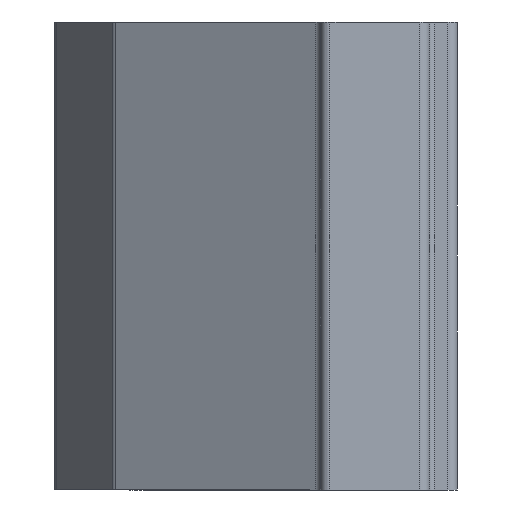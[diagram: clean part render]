
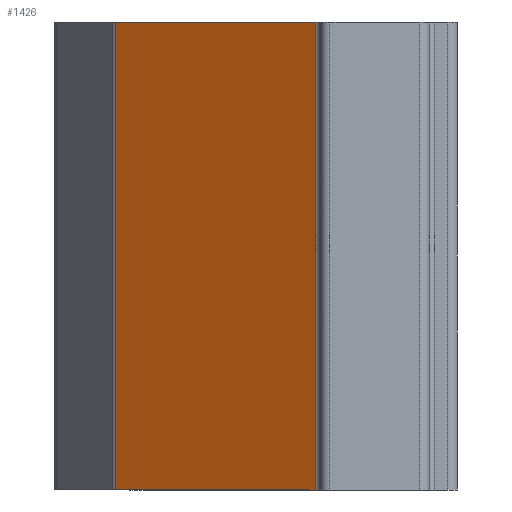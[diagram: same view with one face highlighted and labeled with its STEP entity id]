
A CAD part, front view. The second image highlights one B-rep face of the part: STEP entity #1426.
In plain terms, the highlighted planar face has unit normal (-0.5, -0.866, 0).
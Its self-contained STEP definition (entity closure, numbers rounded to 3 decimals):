
#12 = CARTESIAN_POINT ( 'NONE',  ( -6.05, 41.719, 12.5 ) ) ;
#16 = CARTESIAN_POINT ( 'NONE',  ( -6.05, 41.719, -12.5 ) ) ;
#20 = CARTESIAN_POINT ( 'NONE',  ( -16.743, 47.893, -12.5 ) ) ;
#145 = DIRECTION ( 'NONE',  ( 0., 0., -1. ) ) ;
#146 = VECTOR ( 'NONE', #900, 1000. ) ;
#175 = CARTESIAN_POINT ( 'NONE',  ( -6.05, 41.719, 12.5 ) ) ;
#203 = VERTEX_POINT ( 'NONE', #175 ) ;
#238 = PLANE ( 'NONE',  #1768 ) ;
#344 = DIRECTION ( 'NONE',  ( 0.866, -0.5, 0. ) ) ;
#345 = EDGE_LOOP ( 'NONE', ( #1789, #1502, #644, #919 ) ) ;
#376 = CARTESIAN_POINT ( 'NONE',  ( -16.743, 47.893, 12.5 ) ) ;
#452 = LINE ( 'NONE', #12, #860 ) ;
#455 = FACE_OUTER_BOUND ( 'NONE', #345, .T. ) ;
#607 = CARTESIAN_POINT ( 'NONE',  ( -16.743, 47.893, -12.5 ) ) ;
#644 = ORIENTED_EDGE ( 'NONE', *, *, #747, .F. ) ;
#657 = LINE ( 'NONE', #376, #1849 ) ;
#747 = EDGE_CURVE ( 'NONE', #1680, #203, #657, .T. ) ;
#785 = LINE ( 'NONE', #1470, #1795 ) ;
#860 = VECTOR ( 'NONE', #1296, 1000. ) ;
#900 = DIRECTION ( 'NONE',  ( 0.866, -0.5, 0. ) ) ;
#919 = ORIENTED_EDGE ( 'NONE', *, *, #1120, .T. ) ;
#1093 = DIRECTION ( 'NONE',  ( 0.5, 0.866, 0. ) ) ;
#1102 = VERTEX_POINT ( 'NONE', #16 ) ;
#1120 = EDGE_CURVE ( 'NONE', #1680, #1131, #785, .T. ) ;
#1131 = VERTEX_POINT ( 'NONE', #607 ) ;
#1157 = EDGE_CURVE ( 'NONE', #1131, #1102, #1776, .T. ) ;
#1253 = CARTESIAN_POINT ( 'NONE',  ( -16.743, 47.893, 12.5 ) ) ;
#1296 = DIRECTION ( 'NONE',  ( 0., 0., -1. ) ) ;
#1426 = ADVANCED_FACE ( 'NONE', ( #455 ), #238, .F. ) ;
#1470 = CARTESIAN_POINT ( 'NONE',  ( -16.743, 47.893, 12.5 ) ) ;
#1502 = ORIENTED_EDGE ( 'NONE', *, *, #1832, .F. ) ;
#1560 = CARTESIAN_POINT ( 'NONE',  ( -16.743, 47.893, 12.5 ) ) ;
#1650 = DIRECTION ( 'NONE',  ( -0.866, 0.5, 0. ) ) ;
#1680 = VERTEX_POINT ( 'NONE', #1560 ) ;
#1768 = AXIS2_PLACEMENT_3D ( 'NONE', #1253, #1093, #1650 ) ;
#1776 = LINE ( 'NONE', #20, #146 ) ;
#1789 = ORIENTED_EDGE ( 'NONE', *, *, #1157, .T. ) ;
#1795 = VECTOR ( 'NONE', #145, 1000. ) ;
#1832 = EDGE_CURVE ( 'NONE', #203, #1102, #452, .T. ) ;
#1849 = VECTOR ( 'NONE', #344, 1000. ) ;
